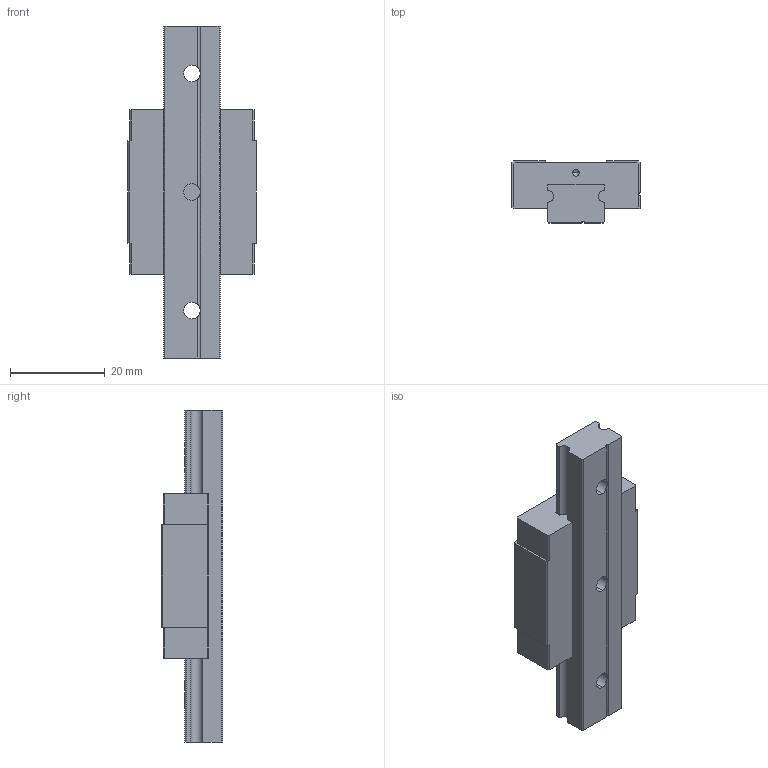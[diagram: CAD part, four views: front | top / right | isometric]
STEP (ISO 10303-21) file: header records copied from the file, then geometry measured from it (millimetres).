
FILE_DESCRIPTION (( 'STEP AP214' ), '1' );
FILE_NAME ('2.1054 Lineaarikelkka MGN12CE.STEP', '2025-09-19T06:51:09', ( '' ), ( '' ), 'SwSTEP 2.0', 'SolidWorks 2025', '' );
FILE_SCHEMA (( 'AUTOMOTIVE_DESIGN' ));
Length unit declared in the file: millimetre
Products named in the file (1): 2.1054 Lineaarikelkka MGN12CE
Bounding box: 27 x 13 x 70 mm (x, y, z)
Volume: 12976.6 mm3; surface area: 7002.2 mm2
Topology: 2 solids, 2 shells, 97 faces, 269 edges, 170 vertices
Faces by surface type: plane 52, cylinder 33, cone 12
Entity records: 4265 total; most frequent: CARTESIAN_POINT 675, DIRECTION 521, ORIENTED_EDGE 514, EDGE_CURVE 257, LINE 183, VECTOR 183, VERTEX_POINT 170, AXIS2_PLACEMENT_3D 169
